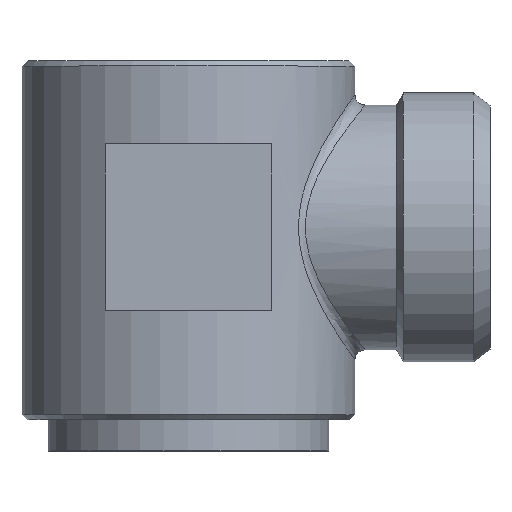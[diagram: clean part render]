
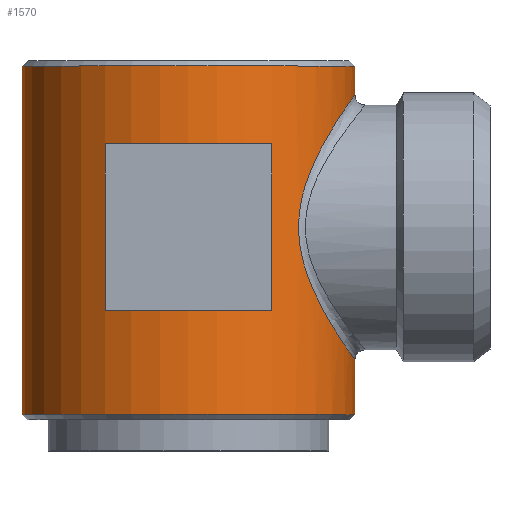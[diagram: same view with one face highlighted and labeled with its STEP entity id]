
A CAD part, top view. The second image highlights one B-rep face of the part: STEP entity #1570.
In plain terms, the highlighted cylindrical face has radius 16 mm (diameter 32 mm), a partial arc.
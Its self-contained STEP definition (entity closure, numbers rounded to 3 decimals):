
#277=CARTESIAN_POINT('',(-16.0,16.25,0.));
#278=VERTEX_POINT('',#277);
#294=CARTESIAN_POINT('',(16.0,16.25,0.0));
#295=VERTEX_POINT('',#294);
#359=CARTESIAN_POINT('',(16.0,-17.25,0.));
#360=VERTEX_POINT('',#359);
#361=CARTESIAN_POINT('',(16.0,-12.0,0.));
#362=VERTEX_POINT('',#361);
#363=CARTESIAN_POINT('',(16.0,-17.25,0.));
#364=DIRECTION('',(0.0,1.0,0.0));
#365=VECTOR('',#364,5.25);
#366=LINE('',#363,#365);
#367=EDGE_CURVE('',#360,#362,#366,.T.);
#369=CARTESIAN_POINT('',(-16.0,-17.25,0.0));
#370=VERTEX_POINT('',#369);
#378=CARTESIAN_POINT('',(-16.0,16.25,0.));
#379=DIRECTION('',(0.0,-1.0,0.0));
#380=VECTOR('',#379,33.5);
#381=LINE('',#378,#380);
#382=EDGE_CURVE('',#278,#370,#381,.T.);
#385=CARTESIAN_POINT('',(16.0,13.5,0.));
#386=VERTEX_POINT('',#385);
#387=CARTESIAN_POINT('',(16.0,13.5,0.));
#388=DIRECTION('',(0.0,1.0,0.0));
#389=VECTOR('',#388,2.75);
#390=LINE('',#387,#389);
#391=EDGE_CURVE('',#386,#295,#390,.T.);
#1461=CARTESIAN_POINT('',(0.0,-17.25,0.0));
#1462=DIRECTION('',(0.0,-1.0,0.0));
#1463=DIRECTION('',(1.0,0.0,0.0));
#1464=AXIS2_PLACEMENT_3D('',#1461,#1462,#1463);
#1465=CIRCLE('',#1464,16.0);
#1466=EDGE_CURVE('',#360,#370,#1465,.T.);
#1479=CARTESIAN_POINT('',(0.0,-17.75,0.0));
#1480=DIRECTION('',(0.0,1.0,0.0));
#1481=DIRECTION('',(1.0,0.0,0.0));
#1482=AXIS2_PLACEMENT_3D('',#1479,#1480,#1481);
#1483=CYLINDRICAL_SURFACE('',#1482,16.0);
#1484=ORIENTED_EDGE('',*,*,#367,.T.);
#1485=CARTESIAN_POINT('',(16.0,-12.0,0.));
#1486=CARTESIAN_POINT('',(16.0,-12.0,2.151));
#1487=CARTESIAN_POINT('',(15.531,-11.353,4.29));
#1488=CARTESIAN_POINT('',(13.944,-8.943,8.174));
#1489=CARTESIAN_POINT('',(12.715,-7.029,9.815));
#1490=CARTESIAN_POINT('',(11.185,-3.296,11.472));
#1491=CARTESIAN_POINT('',(10.728,-1.732,11.871));
#1492=CARTESIAN_POINT('',(10.497,1.543,12.076));
#1493=CARTESIAN_POINT('',(10.751,3.209,11.867));
#1494=CARTESIAN_POINT('',(11.81,6.601,10.826));
#1495=CARTESIAN_POINT('',(12.685,8.258,9.865));
#1496=CARTESIAN_POINT('',(14.44,11.266,7.116));
#1497=CARTESIAN_POINT('',(15.318,12.523,5.153));
#1498=CARTESIAN_POINT('',(15.907,13.37,1.968));
#1499=CARTESIAN_POINT('',(16.0,13.5,0.981));
#1500=CARTESIAN_POINT('',(16.0,13.5,0.));
#1501=B_SPLINE_CURVE_WITH_KNOTS('',3,(#1485,#1486,#1487,#1488,#1489,#1490,#1491,#1492,#1493,#1494,#1495,#1496,#1497,#1498,#1499,#1500),.UNSPECIFIED.,.F.,.U.,(4,2,2,2,2,2,2,4),(18.665,24.796,32.192,36.591,40.99,46.577,53.225,56.024),.UNSPECIFIED.);
#1502=EDGE_CURVE('',#386,#362,#1501,.F.);
#1503=ORIENTED_EDGE('',*,*,#1502,.F.);
#1504=ORIENTED_EDGE('',*,*,#391,.T.);
#1505=CARTESIAN_POINT('',(0.0,16.25,0.0));
#1506=DIRECTION('',(0.0,1.0,0.0));
#1507=DIRECTION('',(-1.0,0.0,0.0));
#1508=AXIS2_PLACEMENT_3D('',#1505,#1506,#1507);
#1509=CIRCLE('',#1508,16.0);
#1510=EDGE_CURVE('',#278,#295,#1509,.T.);
#1511=ORIENTED_EDGE('',*,*,#1510,.F.);
#1512=ORIENTED_EDGE('',*,*,#382,.T.);
#1513=ORIENTED_EDGE('',*,*,#1466,.F.);
#1514=EDGE_LOOP('',(#1484,#1503,#1504,#1511,#1512,#1513));
#1515=FACE_OUTER_BOUND('',#1514,.T.);
#1516=CARTESIAN_POINT('',(-8.0,-7.25,13.856));
#1517=VERTEX_POINT('',#1516);
#1518=CARTESIAN_POINT('',(-8.0,8.75,13.856));
#1519=VERTEX_POINT('',#1518);
#1520=CARTESIAN_POINT('',(-8.0,-7.25,13.856));
#1521=DIRECTION('',(0.0,1.0,0.0));
#1522=VECTOR('',#1521,16.0);
#1523=LINE('',#1520,#1522);
#1524=EDGE_CURVE('',#1517,#1519,#1523,.T.);
#1525=ORIENTED_EDGE('',*,*,#1524,.T.);
#1526=CARTESIAN_POINT('',(0.0,8.75,16.0));
#1527=VERTEX_POINT('',#1526);
#1528=CARTESIAN_POINT('',(0.0,8.75,0.0));
#1529=DIRECTION('',(0.0,1.0,0.0));
#1530=DIRECTION('',(1.0,0.0,0.0));
#1531=AXIS2_PLACEMENT_3D('',#1528,#1529,#1530);
#1532=CIRCLE('',#1531,16.0);
#1533=EDGE_CURVE('',#1519,#1527,#1532,.T.);
#1534=ORIENTED_EDGE('',*,*,#1533,.T.);
#1535=CARTESIAN_POINT('',(8.,8.75,13.856));
#1536=VERTEX_POINT('',#1535);
#1537=CARTESIAN_POINT('',(0.0,8.75,0.0));
#1538=DIRECTION('',(0.0,1.0,0.0));
#1539=DIRECTION('',(1.0,0.0,0.0));
#1540=AXIS2_PLACEMENT_3D('',#1537,#1538,#1539);
#1541=CIRCLE('',#1540,16.0);
#1542=EDGE_CURVE('',#1527,#1536,#1541,.T.);
#1543=ORIENTED_EDGE('',*,*,#1542,.T.);
#1544=CARTESIAN_POINT('',(8.,-7.25,13.856));
#1545=VERTEX_POINT('',#1544);
#1546=CARTESIAN_POINT('',(8.,8.75,13.856));
#1547=DIRECTION('',(0.0,-1.0,0.0));
#1548=VECTOR('',#1547,16.);
#1549=LINE('',#1546,#1548);
#1550=EDGE_CURVE('',#1536,#1545,#1549,.T.);
#1551=ORIENTED_EDGE('',*,*,#1550,.T.);
#1552=CARTESIAN_POINT('',(0.0,-7.25,16.0));
#1553=VERTEX_POINT('',#1552);
#1554=CARTESIAN_POINT('',(0.0,-7.25,0.0));
#1555=DIRECTION('',(0.0,-1.0,0.0));
#1556=DIRECTION('',(1.0,0.0,0.0));
#1557=AXIS2_PLACEMENT_3D('',#1554,#1555,#1556);
#1558=CIRCLE('',#1557,16.0);
#1559=EDGE_CURVE('',#1545,#1553,#1558,.T.);
#1560=ORIENTED_EDGE('',*,*,#1559,.T.);
#1561=CARTESIAN_POINT('',(0.0,-7.25,0.0));
#1562=DIRECTION('',(0.0,-1.0,0.0));
#1563=DIRECTION('',(1.0,0.0,0.0));
#1564=AXIS2_PLACEMENT_3D('',#1561,#1562,#1563);
#1565=CIRCLE('',#1564,16.0);
#1566=EDGE_CURVE('',#1553,#1517,#1565,.T.);
#1567=ORIENTED_EDGE('',*,*,#1566,.T.);
#1568=EDGE_LOOP('',(#1525,#1534,#1543,#1551,#1560,#1567));
#1569=FACE_BOUND('',#1568,.T.);
#1570=ADVANCED_FACE('',(#1515,#1569),#1483,.T.);
